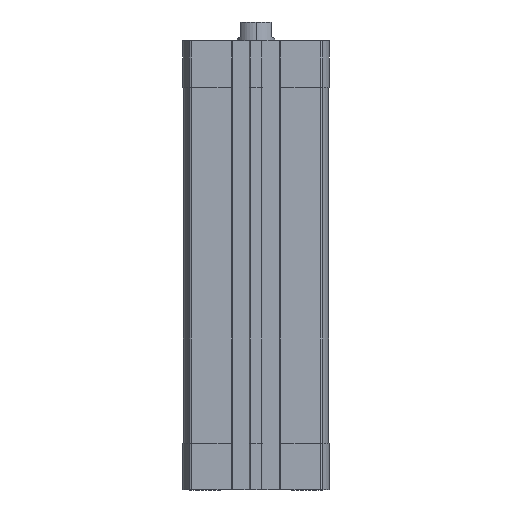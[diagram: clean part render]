
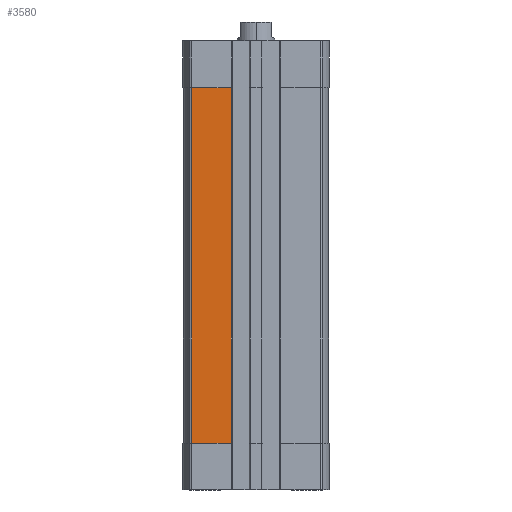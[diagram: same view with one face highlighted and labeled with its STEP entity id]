
A CAD part, left-side view. The second image highlights one B-rep face of the part: STEP entity #3580.
In plain terms, the highlighted planar face has unit normal (-1, 0, 0).
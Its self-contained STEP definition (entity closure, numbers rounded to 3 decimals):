
#194 = CARTESIAN_POINT ( 'NONE',  ( -23.25, 20.543, -129. ) ) ;
#953 = VECTOR ( 'NONE', #13958, 1000. ) ;
#1986 = EDGE_CURVE ( 'NONE', #11899, #10303, #12694, .T. ) ;
#2440 = AXIS2_PLACEMENT_3D ( 'NONE', #12468, #2983, #11360 ) ;
#2578 = VECTOR ( 'NONE', #5530, 1000. ) ;
#2983 = DIRECTION ( 'NONE',  ( -1., 0., 0. ) ) ;
#3199 = VECTOR ( 'NONE', #3547, 1000. ) ;
#3385 = VERTEX_POINT ( 'NONE', #12177 ) ;
#3504 = CARTESIAN_POINT ( 'NONE',  ( -23.25, 7.95, -129. ) ) ;
#3547 = DIRECTION ( 'NONE',  ( 0., 0., -1. ) ) ;
#3580 = ADVANCED_FACE ( 'NONE', ( #8913 ), #7771, .T. ) ;
#3680 = ORIENTED_EDGE ( 'NONE', *, *, #9016, .T. ) ;
#3939 = DIRECTION ( 'NONE',  ( 0., 0., -1. ) ) ;
#4256 = LINE ( 'NONE', #4448, #953 ) ;
#4448 = CARTESIAN_POINT ( 'NONE',  ( -23.25, 20.543, -129. ) ) ;
#5530 = DIRECTION ( 'NONE',  ( 0., 1., 0. ) ) ;
#5890 = ORIENTED_EDGE ( 'NONE', *, *, #10320, .T. ) ;
#6883 = EDGE_CURVE ( 'NONE', #11899, #3385, #12115, .T. ) ;
#7771 = PLANE ( 'NONE',  #2440 ) ;
#8338 = ORIENTED_EDGE ( 'NONE', *, *, #6883, .T. ) ;
#8679 = CARTESIAN_POINT ( 'NONE',  ( -23.25, 7.95, -129. ) ) ;
#8913 = FACE_OUTER_BOUND ( 'NONE', #12214, .T. ) ;
#9016 = EDGE_CURVE ( 'NONE', #11905, #10303, #4256, .T. ) ;
#9133 = CARTESIAN_POINT ( 'NONE',  ( -23.25, 0., -15. ) ) ;
#9889 = VECTOR ( 'NONE', #3939, 1000. ) ;
#10303 = VERTEX_POINT ( 'NONE', #8679 ) ;
#10320 = EDGE_CURVE ( 'NONE', #3385, #11905, #12968, .T. ) ;
#10769 = ORIENTED_EDGE ( 'NONE', *, *, #1986, .F. ) ;
#11360 = DIRECTION ( 'NONE',  ( 0., 0., 1. ) ) ;
#11522 = CARTESIAN_POINT ( 'NONE',  ( -23.25, 20.543, -129. ) ) ;
#11899 = VERTEX_POINT ( 'NONE', #15084 ) ;
#11905 = VERTEX_POINT ( 'NONE', #11522 ) ;
#12115 = LINE ( 'NONE', #9133, #2578 ) ;
#12177 = CARTESIAN_POINT ( 'NONE',  ( -23.25, 20.543, -15. ) ) ;
#12214 = EDGE_LOOP ( 'NONE', ( #3680, #10769, #8338, #5890 ) ) ;
#12468 = CARTESIAN_POINT ( 'NONE',  ( -23.25, 20.543, -129. ) ) ;
#12694 = LINE ( 'NONE', #3504, #3199 ) ;
#12968 = LINE ( 'NONE', #194, #9889 ) ;
#13958 = DIRECTION ( 'NONE',  ( 0., -1., 0. ) ) ;
#15084 = CARTESIAN_POINT ( 'NONE',  ( -23.25, 7.95, -15. ) ) ;
